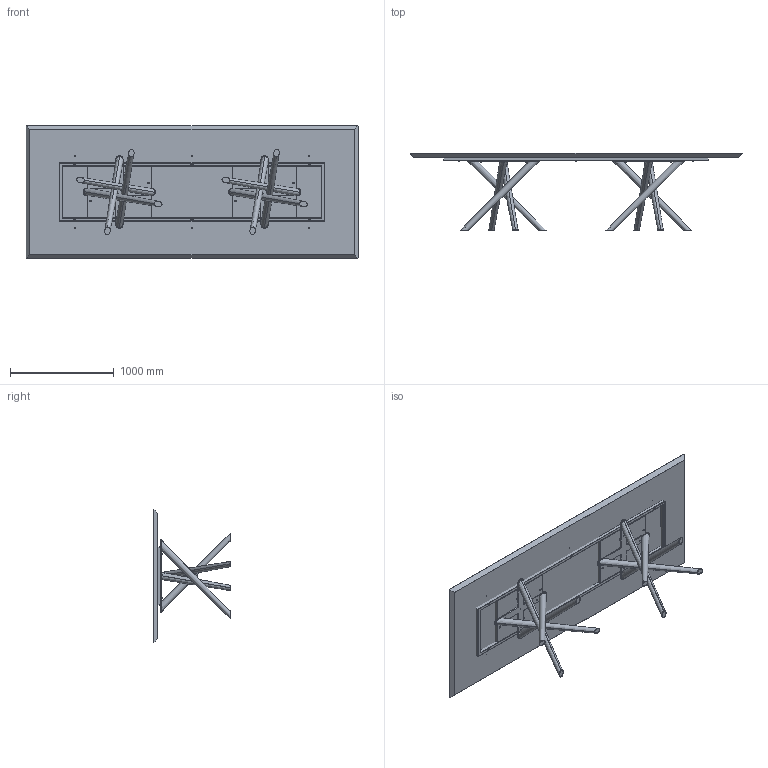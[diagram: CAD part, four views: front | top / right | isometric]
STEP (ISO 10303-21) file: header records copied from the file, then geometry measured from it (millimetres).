
FILE_DESCRIPTION (( 'STEP AP203' ), '1' );
FILE_NAME ('BA28W.STEP', '2024-08-08T05:55:01', ( '' ), ( '' ), 'SwSTEP 2.0', 'SolidWorks 2022', '' );
FILE_SCHEMA (( 'CONFIG_CONTROL_DESIGN' ));
Length unit declared in the file: millimetre
Products named in the file (13): BAB000000-00-BALY BASE GREZZA; BAB000000_02-00-basamento pali conificati; TTAV03-06-TELAIO UNIVERSALE X TAVOLI 300-340cm; Parte5^BAB000000-00-BALY BASE GREZZA; M8xXXmm_M8x20mm; rondella M8_8X16; TTAV03_01-06-RING TUBO TELAIO UNIVERSALE X TAVOLI 300-340cm; BA28W; W2XCMXX-00-Piani Rettangolari in legno_3200 x 1280; TTAV03_02-06-VASSOIO IRRIGIDIMENTO TELAIO UNIVERSALE RETTANGOLARE; 434070-00-PIEDINO TPV GOMMA NERO D. 30x8max18; M8xXXmm_M8x55mm; BAB000000_01-00-Croce Superiore baly
Assembly tree (34 placements, depth 3):
  BA28W
    W2XCMXX-00-Piani Rettangolari in legno_3200 x 1280
    TTAV03-06-TELAIO UNIVERSALE X TAVOLI 300-340cm
      TTAV03_01-06-RING TUBO TELAIO UNIVERSALE X TAVOLI 300-340cm
      TTAV03_02-06-VASSOIO IRRIGIDIMENTO TELAIO UNIVERSALE RETTANGOLARE  x2
    BAB000000-00-BALY BASE GREZZA  x2
      BAB000000_01-00-Croce Superiore baly
      BAB000000_02-00-basamento pali conificati
      Parte5^BAB000000-00-BALY BASE GREZZA
    434070-00-PIEDINO TPV GOMMA NERO D. 30x8max18  x2
    M8xXXmm_M8x55mm  x6
    M8xXXmm_M8x20mm  x8
    rondella M8_8X16  x8
Bounding box: 3200 x 743 x 1280 mm (x, y, z)
Volume: 159611477.6 mm3; surface area: 14770063.1 mm2
Topology: 48 solids, 48 shells, 1214 faces, 2786 edges, 1636 vertices
Faces by surface type: plane 498, cylinder 322, cone 242, torus 128, bspline 16, sphere 8
Entity records: 17652 total; most frequent: CARTESIAN_POINT 4269, DIRECTION 2453, ORIENTED_EDGE 2290, EDGE_CURVE 1145, AXIS2_PLACEMENT_3D 910, VERTEX_POINT 706, VECTOR 633, LINE 633
